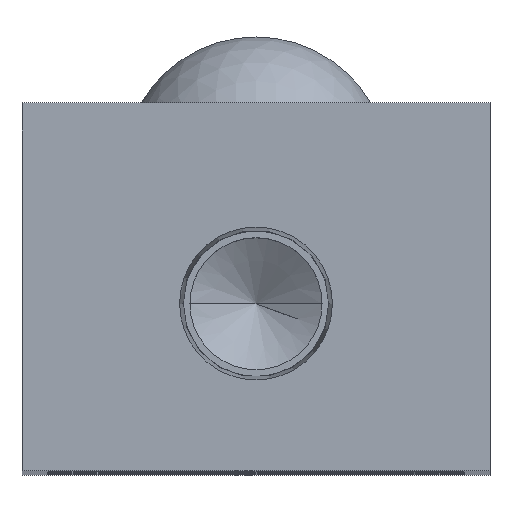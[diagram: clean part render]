
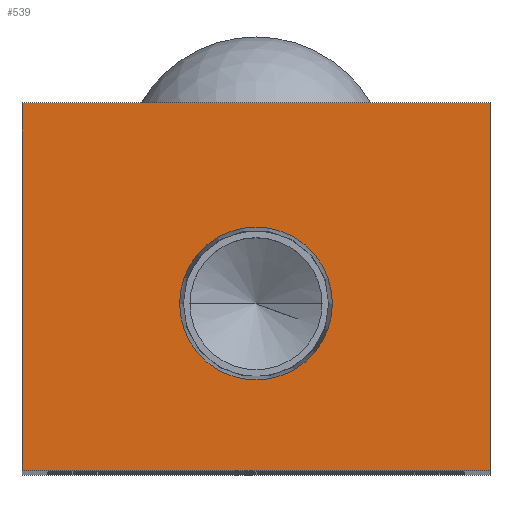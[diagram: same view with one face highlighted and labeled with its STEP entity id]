
A CAD part, top view. The second image highlights one B-rep face of the part: STEP entity #539.
In plain terms, the highlighted planar face has unit normal (0, 0, 1).
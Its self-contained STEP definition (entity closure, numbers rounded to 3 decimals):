
#149 = DIRECTION ( 'NONE',  ( 0., 1., 0. ) ) ;
#316 = CARTESIAN_POINT ( 'NONE',  ( 14., 0., 0. ) ) ;
#324 = LINE ( 'NONE', #4487, #3095 ) ;
#383 = VECTOR ( 'NONE', #3331, 1000. ) ;
#443 = ORIENTED_EDGE ( 'NONE', *, *, #1274, .T. ) ;
#539 = ADVANCED_FACE ( 'NONE', ( #4358, #3383 ), #3558, .F. ) ;
#659 = DIRECTION ( 'NONE',  ( 0., 0., 1. ) ) ;
#723 = EDGE_CURVE ( 'NONE', #3744, #4610, #4520, .T. ) ;
#755 = VERTEX_POINT ( 'NONE', #2111 ) ;
#784 = CARTESIAN_POINT ( 'NONE',  ( 0., 10., 0. ) ) ;
#911 = EDGE_LOOP ( 'NONE', ( #1011, #4639 ) ) ;
#1011 = ORIENTED_EDGE ( 'NONE', *, *, #2834, .F. ) ;
#1089 = CIRCLE ( 'NONE', #1200, 4.574 ) ;
#1147 = DIRECTION ( 'NONE',  ( 1., 0., 0. ) ) ;
#1191 = VERTEX_POINT ( 'NONE', #3289 ) ;
#1200 = AXIS2_PLACEMENT_3D ( 'NONE', #2820, #659, #3199 ) ;
#1265 = VECTOR ( 'NONE', #2124, 1000. ) ;
#1274 = EDGE_CURVE ( 'NONE', #1852, #3680, #3273, .T. ) ;
#1609 = VECTOR ( 'NONE', #3198, 1000. ) ;
#1728 = DIRECTION ( 'NONE',  ( 0., 0., -1. ) ) ;
#1787 = CARTESIAN_POINT ( 'NONE',  ( 14., 22., 0. ) ) ;
#1852 = VERTEX_POINT ( 'NONE', #2180 ) ;
#2006 = EDGE_CURVE ( 'NONE', #3680, #3744, #324, .T. ) ;
#2111 = CARTESIAN_POINT ( 'NONE',  ( -4.574, 10., 0. ) ) ;
#2124 = DIRECTION ( 'NONE',  ( 0., -1., 0. ) ) ;
#2160 = EDGE_CURVE ( 'NONE', #755, #1191, #2623, .T. ) ;
#2180 = CARTESIAN_POINT ( 'NONE',  ( -14., 0., 0. ) ) ;
#2199 = EDGE_LOOP ( 'NONE', ( #4317, #443, #3910, #2598 ) ) ;
#2220 = LINE ( 'NONE', #4534, #1265 ) ;
#2291 = AXIS2_PLACEMENT_3D ( 'NONE', #784, #3315, #1147 ) ;
#2389 = CARTESIAN_POINT ( 'NONE',  ( -14., 22., 0. ) ) ;
#2445 = AXIS2_PLACEMENT_3D ( 'NONE', #3925, #1728, #4281 ) ;
#2459 = EDGE_CURVE ( 'NONE', #4610, #1852, #2220, .T. ) ;
#2598 = ORIENTED_EDGE ( 'NONE', *, *, #723, .T. ) ;
#2623 = CIRCLE ( 'NONE', #2291, 4.574 ) ;
#2819 = CARTESIAN_POINT ( 'NONE',  ( -14., 22., 0. ) ) ;
#2820 = CARTESIAN_POINT ( 'NONE',  ( 0., 10., 0. ) ) ;
#2834 = EDGE_CURVE ( 'NONE', #1191, #755, #1089, .T. ) ;
#2958 = CARTESIAN_POINT ( 'NONE',  ( -14., 0., 0. ) ) ;
#3095 = VECTOR ( 'NONE', #149, 1000. ) ;
#3198 = DIRECTION ( 'NONE',  ( -1., 0., 0. ) ) ;
#3199 = DIRECTION ( 'NONE',  ( 1., 0., 0. ) ) ;
#3273 = LINE ( 'NONE', #2958, #383 ) ;
#3289 = CARTESIAN_POINT ( 'NONE',  ( 4.574, 10., 0. ) ) ;
#3315 = DIRECTION ( 'NONE',  ( 0., 0., 1. ) ) ;
#3331 = DIRECTION ( 'NONE',  ( 1., 0., 0. ) ) ;
#3383 = FACE_OUTER_BOUND ( 'NONE', #2199, .T. ) ;
#3558 = PLANE ( 'NONE',  #2445 ) ;
#3680 = VERTEX_POINT ( 'NONE', #316 ) ;
#3744 = VERTEX_POINT ( 'NONE', #1787 ) ;
#3910 = ORIENTED_EDGE ( 'NONE', *, *, #2006, .T. ) ;
#3925 = CARTESIAN_POINT ( 'NONE',  ( 0., 0., 0. ) ) ;
#4281 = DIRECTION ( 'NONE',  ( -1., 0., 0. ) ) ;
#4317 = ORIENTED_EDGE ( 'NONE', *, *, #2459, .T. ) ;
#4358 = FACE_BOUND ( 'NONE', #911, .T. ) ;
#4487 = CARTESIAN_POINT ( 'NONE',  ( 14., 0., 0. ) ) ;
#4520 = LINE ( 'NONE', #2819, #1609 ) ;
#4534 = CARTESIAN_POINT ( 'NONE',  ( -14., 0., 0. ) ) ;
#4610 = VERTEX_POINT ( 'NONE', #2389 ) ;
#4639 = ORIENTED_EDGE ( 'NONE', *, *, #2160, .F. ) ;
